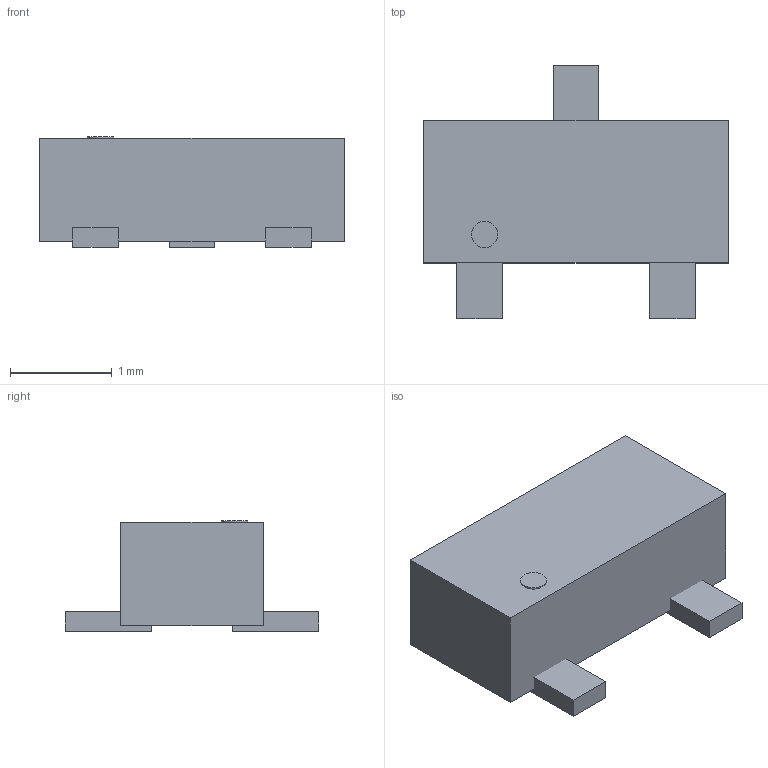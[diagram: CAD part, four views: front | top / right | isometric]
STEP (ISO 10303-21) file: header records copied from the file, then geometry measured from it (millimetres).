
FILE_DESCRIPTION(('FreeCAD Model'),'2;1');
FILE_NAME('Open CASCADE Shape Model','2026-09-23T12:07:01',('FreeCAD'),( 'FreeCAD'),'Open CASCADE STEP processor 7.8','FreeCAD','Unknown');
FILE_SCHEMA(('AUTOMOTIVE_DESIGN { 1 0 10303 214 1 1 1 1 }'));
Length unit declared in the file: millimetre
Products named in the file (1): Open CASCADE STEP translator 7.8 4
Bounding box: 3 x 2.5 x 1.09 mm (x, y, z)
Volume: 4.5 mm3; surface area: 21.3 mm2
Topology: 5 solids, 5 shells, 58 faces, 144 edges, 96 vertices
Faces by surface type: plane 58
Entity records: 1690 total; most frequent: CARTESIAN_POINT 299, ORIENTED_EDGE 288, DIRECTION 262, EDGE_CURVE 144, LINE 144, VECTOR 144, VERTEX_POINT 96, AXIS2_PLACEMENT_3D 59
